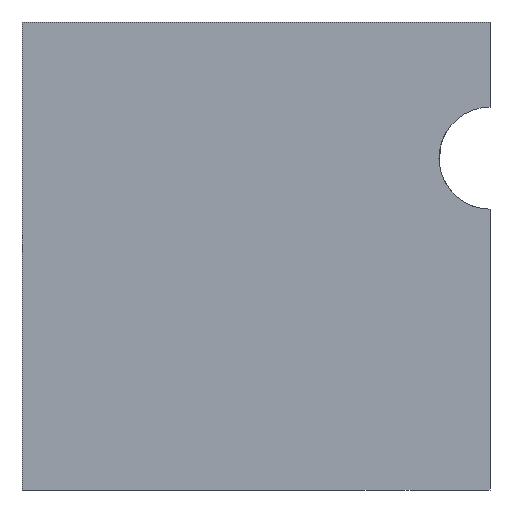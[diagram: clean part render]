
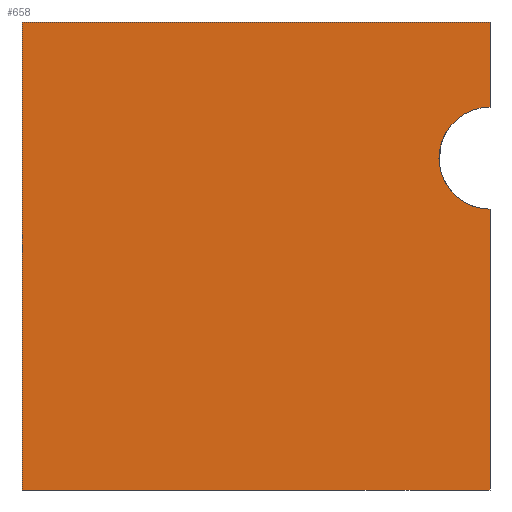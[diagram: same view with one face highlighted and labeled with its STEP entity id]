
A CAD part, left-side view. The second image highlights one B-rep face of the part: STEP entity #658.
In plain terms, the highlighted planar face has unit normal (-1, 0, 0).
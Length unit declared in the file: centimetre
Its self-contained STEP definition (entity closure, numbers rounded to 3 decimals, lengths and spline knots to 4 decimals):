
#6 = CARTESIAN_POINT ( 'NONE',  ( 0., 1000., 1000. ) ) ;
#19 = EDGE_CURVE ( 'NONE', #1132, #505, #945, .T. ) ;
#27 = EDGE_CURVE ( 'NONE', #172, #410, #575, .T. ) ;
#53 = VECTOR ( 'NONE', #1078, 100. ) ;
#64 = EDGE_CURVE ( 'NONE', #647, #172, #664, .T. ) ;
#84 = CARTESIAN_POINT ( 'NONE',  ( 0., 0., 1000. ) ) ;
#145 = DIRECTION ( 'NONE',  ( 0., 0., -1. ) ) ;
#151 = EDGE_CURVE ( 'NONE', #505, #1076, #1294, .T. ) ;
#157 = VECTOR ( 'NONE', #417, 100. ) ;
#172 = VERTEX_POINT ( 'NONE', #795 ) ;
#176 = AXIS2_PLACEMENT_3D ( 'NONE', #680, #268, #561 ) ;
#228 = CARTESIAN_POINT ( 'NONE',  ( 0., 0., 1000. ) ) ;
#234 = AXIS2_PLACEMENT_3D ( 'NONE', #487, #684, #789 ) ;
#268 = DIRECTION ( 'NONE',  ( -1., 0., 0. ) ) ;
#363 = DIRECTION ( 'NONE',  ( 0., 0., -1. ) ) ;
#372 = CARTESIAN_POINT ( 'NONE',  ( 0., 0., 0. ) ) ;
#408 = CARTESIAN_POINT ( 'NONE',  ( 0., 1000., 0. ) ) ;
#410 = VERTEX_POINT ( 'NONE', #814 ) ;
#417 = DIRECTION ( 'NONE',  ( 0., 0., -1. ) ) ;
#458 = ORIENTED_EDGE ( 'NONE', *, *, #64, .F. ) ;
#487 = CARTESIAN_POINT ( 'NONE',  ( 0., 1000., 1000. ) ) ;
#505 = VERTEX_POINT ( 'NONE', #1246 ) ;
#561 = DIRECTION ( 'NONE',  ( 0., 0., 1. ) ) ;
#572 = ORIENTED_EDGE ( 'NONE', *, *, #1051, .F. ) ;
#575 = CIRCLE ( 'NONE', #176, 108.9988 ) ;
#577 = CARTESIAN_POINT ( 'NONE',  ( 0., 0., 1000. ) ) ;
#585 = CARTESIAN_POINT ( 'NONE',  ( 0., 1000., 1000. ) ) ;
#586 = PLANE ( 'NONE',  #234 ) ;
#603 = DIRECTION ( 'NONE',  ( 0., -1., 0. ) ) ;
#647 = VERTEX_POINT ( 'NONE', #84 ) ;
#658 = ADVANCED_FACE ( 'NONE', ( #1079 ), #586, .F. ) ;
#664 = LINE ( 'NONE', #577, #837 ) ;
#680 = CARTESIAN_POINT ( 'NONE',  ( 0., 0., 709.1283 ) ) ;
#681 = EDGE_LOOP ( 'NONE', ( #853, #1031, #458, #572, #1146, #1120 ) ) ;
#682 = LINE ( 'NONE', #585, #53 ) ;
#684 = DIRECTION ( 'NONE',  ( 1., 0., 0. ) ) ;
#766 = EDGE_CURVE ( 'NONE', #410, #1076, #1124, .T. ) ;
#789 = DIRECTION ( 'NONE',  ( 0., 0., -1. ) ) ;
#795 = CARTESIAN_POINT ( 'NONE',  ( 0., 0., 818.1271 ) ) ;
#814 = CARTESIAN_POINT ( 'NONE',  ( 0., 0., 600.1295 ) ) ;
#837 = VECTOR ( 'NONE', #145, 100. ) ;
#853 = ORIENTED_EDGE ( 'NONE', *, *, #766, .F. ) ;
#945 = LINE ( 'NONE', #1059, #1276 ) ;
#1031 = ORIENTED_EDGE ( 'NONE', *, *, #27, .F. ) ;
#1051 = EDGE_CURVE ( 'NONE', #1132, #647, #682, .T. ) ;
#1059 = CARTESIAN_POINT ( 'NONE',  ( 0., 1000., 1000. ) ) ;
#1076 = VERTEX_POINT ( 'NONE', #372 ) ;
#1078 = DIRECTION ( 'NONE',  ( 0., -1., 0. ) ) ;
#1079 = FACE_OUTER_BOUND ( 'NONE', #681, .T. ) ;
#1120 = ORIENTED_EDGE ( 'NONE', *, *, #151, .T. ) ;
#1124 = LINE ( 'NONE', #228, #157 ) ;
#1132 = VERTEX_POINT ( 'NONE', #6 ) ;
#1146 = ORIENTED_EDGE ( 'NONE', *, *, #19, .T. ) ;
#1246 = CARTESIAN_POINT ( 'NONE',  ( 0., 1000., 0. ) ) ;
#1276 = VECTOR ( 'NONE', #363, 100. ) ;
#1294 = LINE ( 'NONE', #408, #1295 ) ;
#1295 = VECTOR ( 'NONE', #603, 100. ) ;
